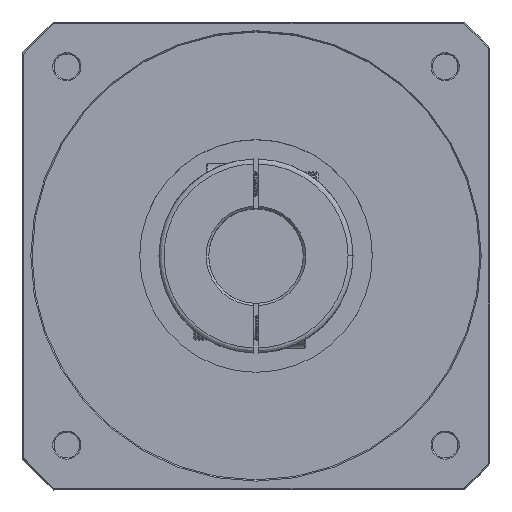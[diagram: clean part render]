
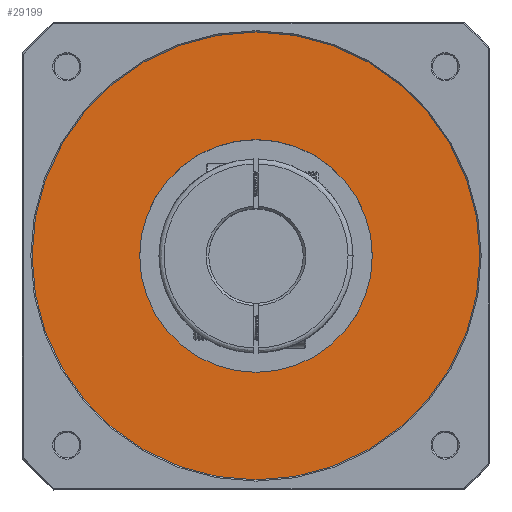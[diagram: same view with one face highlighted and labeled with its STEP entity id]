
A CAD part, top view. The second image highlights one B-rep face of the part: STEP entity #29199.
In plain terms, the highlighted planar face has unit normal (0, 0, -1).
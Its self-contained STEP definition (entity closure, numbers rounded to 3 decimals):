
#5729 = CARTESIAN_POINT ( 'NONE',  ( -91.08, -91.08, 285.5 ) ) ;
#5980 = DIRECTION ( 'NONE',  ( 0., 0., -1. ) ) ;
#6232 = ORIENTED_EDGE ( 'NONE', *, *, #93468, .T. ) ;
#12804 = PLANE ( 'NONE',  #84582 ) ;
#13884 = DIRECTION ( 'NONE',  ( 1., 0., 0. ) ) ;
#15470 = CARTESIAN_POINT ( 'NONE',  ( 0., 0., 285.5 ) ) ;
#16225 = EDGE_CURVE ( 'NONE', #52793, #68440, #80015, .T. ) ;
#19191 = CARTESIAN_POINT ( 'NONE',  ( 0., 0., 285.5 ) ) ;
#20178 = AXIS2_PLACEMENT_3D ( 'NONE', #15470, #71836, #23583 ) ;
#21130 = EDGE_CURVE ( 'NONE', #99621, #70516, #28838, .T. ) ;
#21336 = CARTESIAN_POINT ( 'NONE',  ( 90., 0., 285.5 ) ) ;
#23349 = FACE_OUTER_BOUND ( 'NONE', #66631, .T. ) ;
#23583 = DIRECTION ( 'NONE',  ( -1., 0., 0. ) ) ;
#27303 = DIRECTION ( 'NONE',  ( -1., 0., 0. ) ) ;
#28790 = CIRCLE ( 'NONE', #53702, 46.75 ) ;
#28838 = CIRCLE ( 'NONE', #20178, 46.75 ) ;
#29199 = ADVANCED_FACE ( 'NONE', ( #85124, #23349 ), #12804, .F. ) ;
#33864 = DIRECTION ( 'NONE',  ( 0., 0., -1. ) ) ;
#41512 = AXIS2_PLACEMENT_3D ( 'NONE', #82146, #33864, #90191 ) ;
#47187 = AXIS2_PLACEMENT_3D ( 'NONE', #54285, #5980, #62397 ) ;
#52793 = VERTEX_POINT ( 'NONE', #21336 ) ;
#53212 = EDGE_CURVE ( 'NONE', #70516, #99621, #28790, .T. ) ;
#53702 = AXIS2_PLACEMENT_3D ( 'NONE', #19191, #75568, #27303 ) ;
#54285 = CARTESIAN_POINT ( 'NONE',  ( 0., 0., 285.5 ) ) ;
#62017 = ORIENTED_EDGE ( 'NONE', *, *, #53212, .T. ) ;
#62147 = DIRECTION ( 'NONE',  ( 0., 0., 1. ) ) ;
#62397 = DIRECTION ( 'NONE',  ( 1., 0., 0. ) ) ;
#66631 = EDGE_LOOP ( 'NONE', ( #89158, #6232 ) ) ;
#67829 = CARTESIAN_POINT ( 'NONE',  ( -46.75, 0., 285.5 ) ) ;
#68440 = VERTEX_POINT ( 'NONE', #72685 ) ;
#70516 = VERTEX_POINT ( 'NONE', #67829 ) ;
#71836 = DIRECTION ( 'NONE',  ( 0., 0., 1. ) ) ;
#72685 = CARTESIAN_POINT ( 'NONE',  ( -90., 0., 285.5 ) ) ;
#75568 = DIRECTION ( 'NONE',  ( 0., 0., 1. ) ) ;
#80015 = CIRCLE ( 'NONE', #41512, 90. ) ;
#82146 = CARTESIAN_POINT ( 'NONE',  ( 0., 0., 285.5 ) ) ;
#83825 = ORIENTED_EDGE ( 'NONE', *, *, #21130, .T. ) ;
#84582 = AXIS2_PLACEMENT_3D ( 'NONE', #5729, #62147, #13884 ) ;
#85124 = FACE_BOUND ( 'NONE', #88271, .T. ) ;
#87914 = CIRCLE ( 'NONE', #47187, 90. ) ;
#88271 = EDGE_LOOP ( 'NONE', ( #62017, #83825 ) ) ;
#89158 = ORIENTED_EDGE ( 'NONE', *, *, #16225, .T. ) ;
#90191 = DIRECTION ( 'NONE',  ( 1., 0., 0. ) ) ;
#93468 = EDGE_CURVE ( 'NONE', #68440, #52793, #87914, .T. ) ;
#94923 = CARTESIAN_POINT ( 'NONE',  ( 46.75, 0., 285.5 ) ) ;
#99621 = VERTEX_POINT ( 'NONE', #94923 ) ;
